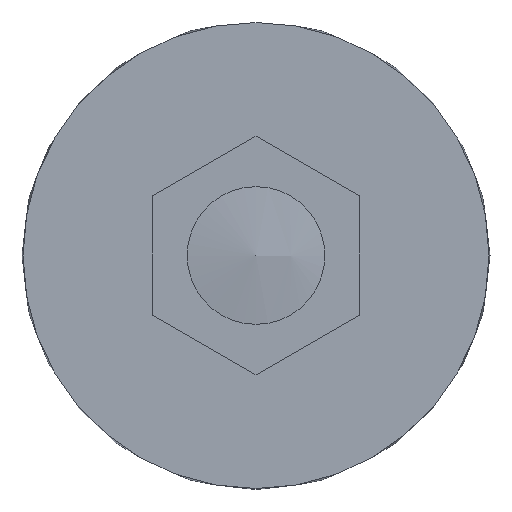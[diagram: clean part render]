
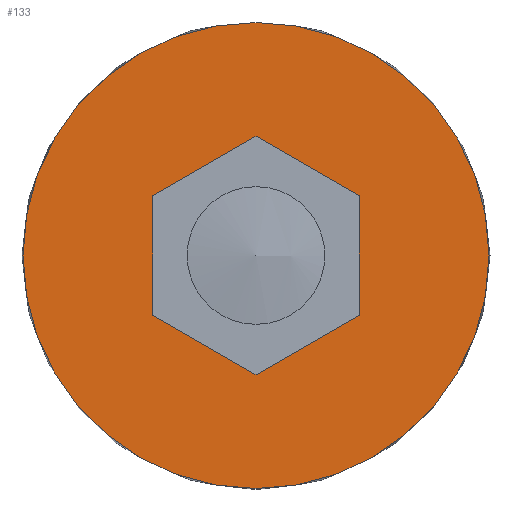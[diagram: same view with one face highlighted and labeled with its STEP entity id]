
A CAD part, front view. The second image highlights one B-rep face of the part: STEP entity #133.
In plain terms, the highlighted planar face has unit normal (0, -1, 0) as drawn and (0, 1, 0) by its records, which use the part's own axes.
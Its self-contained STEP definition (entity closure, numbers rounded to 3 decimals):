
#133 = ADVANCED_FACE( '', ( #160, #161 ), #162, .F. );
#160 = FACE_OUTER_BOUND( '', #217, .T. );
#161 = FACE_BOUND( '', #218, .T. );
#162 = PLANE( '', #219 );
#217 = EDGE_LOOP( '', ( #314 ) );
#218 = EDGE_LOOP( '', ( #315, #316, #317, #318, #319, #320 ) );
#219 = AXIS2_PLACEMENT_3D( '', #321, #322, #323 );
#314 = ORIENTED_EDGE( '', *, *, #466, .F. );
#315 = ORIENTED_EDGE( '', *, *, #467, .T. );
#316 = ORIENTED_EDGE( '', *, *, #468, .T. );
#317 = ORIENTED_EDGE( '', *, *, #469, .T. );
#318 = ORIENTED_EDGE( '', *, *, #470, .T. );
#319 = ORIENTED_EDGE( '', *, *, #471, .T. );
#320 = ORIENTED_EDGE( '', *, *, #472, .T. );
#321 = CARTESIAN_POINT( '', ( 4.233, -2.5, 0. ) );
#322 = DIRECTION( '', ( 0., -1., 0. ) );
#323 = DIRECTION( '', ( 0., 0., -1. ) );
#466 = EDGE_CURVE( '', #518, #518, #519, .T. );
#467 = EDGE_CURVE( '', #520, #521, #522, .T. );
#468 = EDGE_CURVE( '', #521, #523, #524, .T. );
#469 = EDGE_CURVE( '', #523, #525, #526, .T. );
#470 = EDGE_CURVE( '', #525, #527, #528, .T. );
#471 = EDGE_CURVE( '', #527, #529, #530, .T. );
#472 = EDGE_CURVE( '', #529, #520, #531, .T. );
#518 = VERTEX_POINT( '', #600 );
#519 = CIRCLE( '', #601, 16.919 );
#520 = VERTEX_POINT( '', #602 );
#521 = VERTEX_POINT( '', #603 );
#522 = LINE( '', #604, #605 );
#523 = VERTEX_POINT( '', #606 );
#524 = LINE( '', #607, #608 );
#525 = VERTEX_POINT( '', #609 );
#526 = LINE( '', #610, #611 );
#527 = VERTEX_POINT( '', #612 );
#528 = LINE( '', #613, #614 );
#529 = VERTEX_POINT( '', #615 );
#530 = LINE( '', #616, #617 );
#531 = LINE( '', #618, #619 );
#600 = CARTESIAN_POINT( '', ( 0., -2.5, -16.919 ) );
#601 = AXIS2_PLACEMENT_3D( '', #701, #702, #703 );
#602 = CARTESIAN_POINT( '', ( 7.5, -2.5, 4.33 ) );
#603 = CARTESIAN_POINT( '', ( 0., -2.5, 8.66 ) );
#604 = CARTESIAN_POINT( '', ( 6.925, -2.5, 4.662 ) );
#605 = VECTOR( '', #704, 1000. );
#606 = CARTESIAN_POINT( '', ( -7.5, -2.5, 4.33 ) );
#607 = CARTESIAN_POINT( '', ( -0.575, -2.5, 8.328 ) );
#608 = VECTOR( '', #705, 1000. );
#609 = CARTESIAN_POINT( '', ( -7.5, -2.5, -4.33 ) );
#610 = CARTESIAN_POINT( '', ( -7.5, -2.5, 0. ) );
#611 = VECTOR( '', #706, 1000. );
#612 = CARTESIAN_POINT( '', ( 0., -2.5, -8.66 ) );
#613 = CARTESIAN_POINT( '', ( -0.575, -2.5, -8.328 ) );
#614 = VECTOR( '', #707, 1000. );
#615 = CARTESIAN_POINT( '', ( 7.5, -2.5, -4.33 ) );
#616 = CARTESIAN_POINT( '', ( 6.925, -2.5, -4.662 ) );
#617 = VECTOR( '', #708, 1000. );
#618 = CARTESIAN_POINT( '', ( 7.5, -2.5, 0. ) );
#619 = VECTOR( '', #709, 1000. );
#701 = CARTESIAN_POINT( '', ( 0., -2.5, 0. ) );
#702 = DIRECTION( '', ( 0., -1., 0. ) );
#703 = DIRECTION( '', ( 0., 0., -1. ) );
#704 = DIRECTION( '', ( -0.866, 0., 0.5 ) );
#705 = DIRECTION( '', ( -0.866, 0., -0.5 ) );
#706 = DIRECTION( '', ( 0., 0., -1. ) );
#707 = DIRECTION( '', ( 0.866, 0., -0.5 ) );
#708 = DIRECTION( '', ( 0.866, 0., 0.5 ) );
#709 = DIRECTION( '', ( 0., 0., 1. ) );
